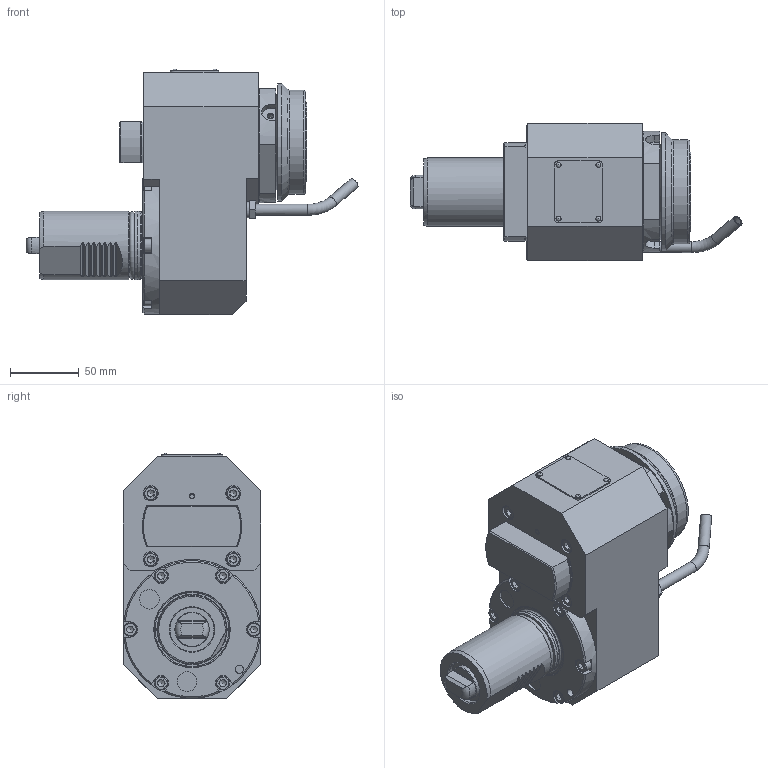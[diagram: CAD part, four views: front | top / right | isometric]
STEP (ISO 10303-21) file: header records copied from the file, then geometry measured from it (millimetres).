
FILE_DESCRIPTION(/* description */ (''),/* implementation_level */ '2;1');
FILE_NAME(/* name */ '189971',/* time_stamp */ '2020-01-15T13:56:53+01:00',/* author */ (''),/* organization */ (''),/* preprocessor_version */ 'ST-DEVELOPER v16.5',/* originating_system */ 'HiCAD 2017 2201.0 Build 268',/* authorisation */ '');
FILE_SCHEMA (('AUTOMOTIVE_DESIGN { 1 0 10303 214 1 1 1 1 }'));
Length unit declared in the file: millimetre
Products named in the file (16): Root; Teil; DIN 13-M12x1; GEWINDE; DIN 13-M60x1-LH; Normteilgruppe _0
Assembly tree (15 placements, depth 3):
  Root
    Teil
      DIN 13-M12x1
      DIN 13-M12x1
      GEWINDE
      GEWINDE
      GEWINDE
      GEWINDE
      GEWINDE
      GEWINDE
      GEWINDE
      GEWINDE
      GEWINDE
      GEWINDE
      DIN 13-M60x1-LH
      Normteilgruppe _0
Bounding box: 241.43 x 100 x 178.8 mm (x, y, z)
Volume: 1557604.8 mm3; surface area: 146811.3 mm2
Topology: 22 solids, 36 shells, 668 faces, 1625 edges, 1043 vertices
Faces by surface type: plane 351, cylinder 187, cone 71, torus 43, sphere 16
Full cylindrical faces by diameter (mm): 2 x4, 2.2 x4, 3.141 x1, 4 x4, 4.773 x14, 6 x17, 6.466 x1, 6.6 x4, 8 x2, 10 x10, 10.773 x2, 11 x4, 11.12 x6, 12 x1, 13.7 x3, 14.27 x2, 16 x1, 25 x1, 28 x1, 32 x1, 34 x2, 43.8 x2, 48.7 x1, 50 x2, 57.3 x1, 58 x1, 58.01 x1, 58.15 x1, 58.773 x2, 60 x2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
Entity records: 42025 total; most frequent: CARTESIAN_POINT 12957, DIRECTION 3097, PRESENTATION_STYLE_ASSIGNMENT 2850, OVER_RIDING_STYLED_ITEM 2836, DRAUGHTING_PRE_DEFINED_CURVE_FONT 2576, CURVE_STYLE 2576, ORIENTED_EDGE 2576, COLOUR_RGB 2545
